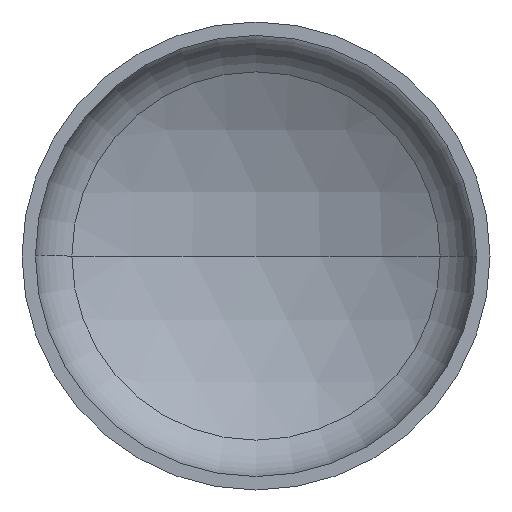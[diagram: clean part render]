
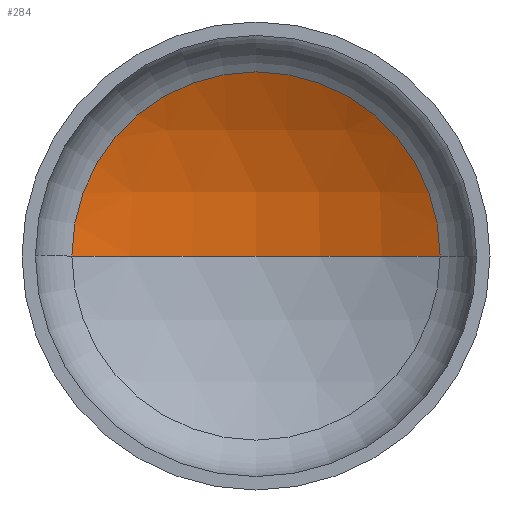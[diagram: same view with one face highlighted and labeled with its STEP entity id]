
A CAD part, front view. The second image highlights one B-rep face of the part: STEP entity #284.
In plain terms, the highlighted spherical face has radius 1200 mm.
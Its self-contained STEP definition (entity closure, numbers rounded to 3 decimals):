
#9 = EDGE_LOOP ( 'NONE', ( #236, #152, #112 ) ) ;
#26 = VERTEX_POINT ( 'NONE', #343 ) ;
#32 = AXIS2_PLACEMENT_3D ( 'NONE', #179, #175, #210 ) ;
#39 = AXIS2_PLACEMENT_3D ( 'NONE', #328, #313, #350 ) ;
#45 = AXIS2_PLACEMENT_3D ( 'NONE', #135, #126, #93 ) ;
#52 = AXIS2_PLACEMENT_3D ( 'NONE', #326, #323, #232 ) ;
#71 = VERTEX_POINT ( 'NONE', #155 ) ;
#93 = DIRECTION ( 'NONE',  ( -1., 0., 0. ) ) ;
#112 = ORIENTED_EDGE ( 'NONE', *, *, #201, .T. ) ;
#126 = DIRECTION ( 'NONE',  ( 0., 0., -1. ) ) ;
#135 = CARTESIAN_POINT ( 'NONE',  ( 0., -714.613, 0. ) ) ;
#152 = ORIENTED_EDGE ( 'NONE', *, *, #208, .T. ) ;
#155 = CARTESIAN_POINT ( 'NONE',  ( -590.103, 330.269, 0. ) ) ;
#158 = VERTEX_POINT ( 'NONE', #285 ) ;
#175 = DIRECTION ( 'NONE',  ( 0., 0., -1. ) ) ;
#177 = SPHERICAL_SURFACE ( 'NONE', #32, 1200. ) ;
#179 = CARTESIAN_POINT ( 'NONE',  ( 0., -714.613, 0. ) ) ;
#201 = EDGE_CURVE ( 'NONE', #158, #71, #368, .T. ) ;
#208 = EDGE_CURVE ( 'NONE', #26, #158, #277, .T. ) ;
#210 = DIRECTION ( 'NONE',  ( -1., 0., 0. ) ) ;
#226 = EDGE_CURVE ( 'NONE', #26, #71, #365, .T. ) ;
#232 = DIRECTION ( 'NONE',  ( 1., 0., 0. ) ) ;
#236 = ORIENTED_EDGE ( 'NONE', *, *, #226, .F. ) ;
#277 = CIRCLE ( 'NONE', #45, 1200. ) ;
#284 = ADVANCED_FACE ( 'NONE', ( #299 ), #177, .F. ) ;
#285 = CARTESIAN_POINT ( 'NONE',  ( 590.103, 330.269, 0. ) ) ;
#299 = FACE_OUTER_BOUND ( 'NONE', #9, .T. ) ;
#313 = DIRECTION ( 'NONE',  ( 0., 0., 1. ) ) ;
#323 = DIRECTION ( 'NONE',  ( 0., -1., 0. ) ) ;
#326 = CARTESIAN_POINT ( 'NONE',  ( 0., 330.269, 0. ) ) ;
#328 = CARTESIAN_POINT ( 'NONE',  ( 0., -714.613, 0. ) ) ;
#343 = CARTESIAN_POINT ( 'NONE',  ( 0., 485.387, 0. ) ) ;
#350 = DIRECTION ( 'NONE',  ( 1., 0., 0. ) ) ;
#365 = CIRCLE ( 'NONE', #39, 1200. ) ;
#368 = CIRCLE ( 'NONE', #52, 590.103 ) ;
